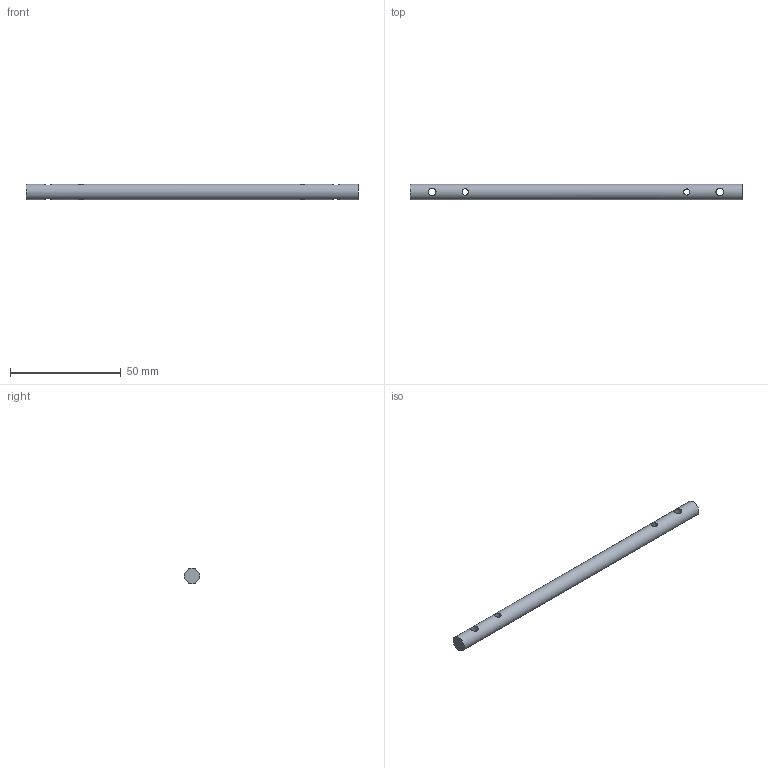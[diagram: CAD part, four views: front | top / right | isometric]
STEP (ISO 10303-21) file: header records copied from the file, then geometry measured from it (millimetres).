
FILE_DESCRIPTION(/* description */ (''),/* implementation_level */ '2;1');
FILE_NAME(/* name */ 'model rod.step',/* time_stamp */ '2025-08-08T12:01:02-04:00',/* author */ (''),/* organization */ (''),/* preprocessor_version */ 'ST-DEVELOPER v20.1',/* originating_system */ 'Autodesk Translation Framework v14.10.0.0',/* authorisation */ '');
FILE_SCHEMA (('AUTOMOTIVE_DESIGN { 1 0 10303 214 3 1 1 }'));
Length unit declared in the file: millimetre
Products named in the file (1): 2025-07-09-15-09-59-141
Bounding box: 150 x 7 x 7 mm (x, y, z)
Volume: 5554.1 mm3; surface area: 3573.6 mm2
Topology: 1 solids, 1 shells, 7 faces, 31 edges, 22 vertices
Faces by surface type: cylinder 5, plane 2
Full cylindrical faces by diameter (mm): 2.75 x1, 2.95 x1, 3.51 x2, 7 x1
Entity records: 604 total; most frequent: CARTESIAN_POINT 337, ORIENTED_EDGE 62, EDGE_CURVE 31, DIRECTION 29, VERTEX_POINT 22, B_SPLINE_CURVE_WITH_KNOTS 20, EDGE_LOOP 11, AXIS2_PLACEMENT_3D 10
